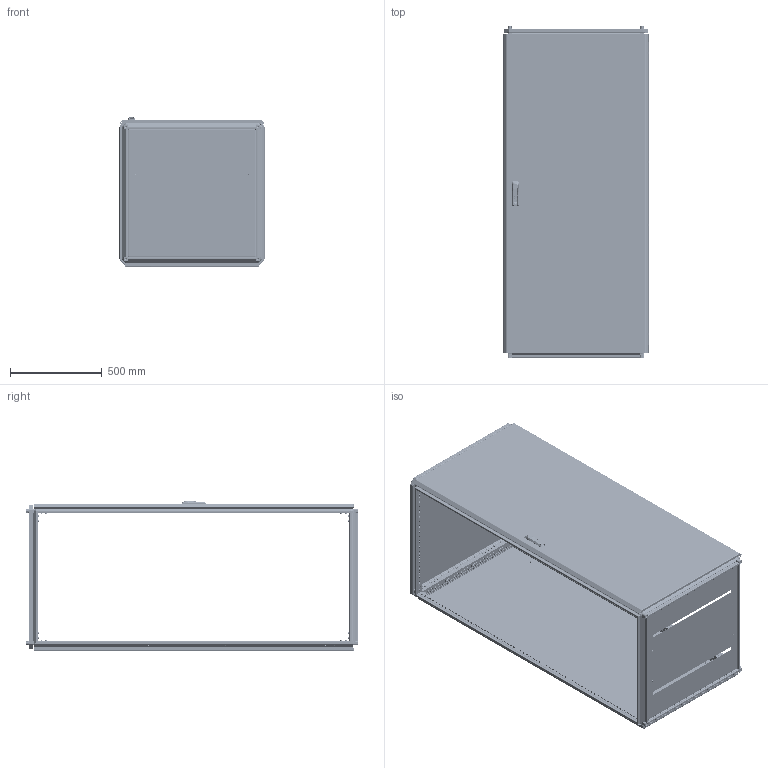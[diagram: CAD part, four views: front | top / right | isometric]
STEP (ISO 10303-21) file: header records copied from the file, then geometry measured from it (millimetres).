
FILE_DESCRIPTION (( 'STEP AP203' ), '1' );
FILE_NAME ('MA1.000.080818.10.00 AleSta1888 Øêàô AleSta 800õ800õ1800.STEP', '2024-08-23T08:16:26', ( '' ), ( '' ), 'SwSTEP 2.0', 'SolidWorks 2021', '' );
FILE_SCHEMA (( 'CONFIG_CONTROL_DESIGN' ));
Length unit declared in the file: millimetre
Products named in the file (49): MA1.000.080818.10.00 AleSta1888 Øêàô AleSta 800õ800õ1800; MA1.101.060620.20.00 Íèæíÿÿ ïàíåëü 600õ600_800å800; Îñü ïåòëè 4õ52_‚¨­â A.M4x0,5x40 ƒŽ‘’ 11644-75; MA1.100.060620.00.01 Ñîåäèíèòåëü óãëîâîé_00; Ïåòëÿ íà äâåðü ï-îáðàçíàÿ; MA1.200.060620.31.04 ðèãåëü çàìêà äâåðè; Íàâåñêà íà êîðïóñ ïîä êëåïêó; Âèíò ñàìîíàðåçàþùèé ñ ïîòàéíîé ãîëîâêîé Ì5x14 DIN 7500 M TORX, êëàññ ïðî÷íîñòè 8.8, îöèíêîâàííàÿ ñòàëü_Œ5å12; ﾘ琺矜 01.019 ﾃﾎﾑﾒ11371-78_12; MA1.101.060620.10.01 Ïîëîòíî êðûøè 600õ600_800x800; Øïèëüêà Ì6õ12_˜¯¨«ìª  Œ6å20; Ãàéêà ñàìîêîíòðÿùàÿñÿ ñ íåéëîíîâîé âñòàâêîé Ì6 DIN 985, êëàññ ïðî÷íîñòè 8, îöèíêîâàííàÿ ñòàëü_Œ5; Øàéáà ñòîïîðíàÿ ñ íàðóæíûìè çóáöàìè SCHNORR, òèï VS öèíêîâûå õëîïüÿ Ì6 O6,4 ART 88121_Œ6; MS463-2-3(1); MA1.101.060620.00.00 AleSta-RB66 Êîìïëåêò êðûøà è îñíîâàíèå_  800å800; 諘蜱齁罻 022 瀁錒瀔隮; äåðæàòåëü_êðóãëîé_òÿãèRG002-RG1010-2-i-RG1010-3-.stp; ﾘ琺矜 65ﾃ 019 ﾃﾎﾑﾒ 6402-70_12; Ïðîáêà ïëàñòèêîâàÿ óíèâåðñàëüíàÿ ïîä îòâåðñòèå 4,5 ìì, ñåðèÿ ST, öâåò áåñöâåòíûé – ST4,5; Âèíò ñàìîíàðåçàþùèé ñ ïîòàéíîé ãîëîâêîé Ì5x14 DIN 7500 M TORX, êëàññ ïðî÷íîñòè 8.8, îöèíêîâàííàÿ ñòàëü_Œ5å14; 7380-2 ISO Âèíòû ñ ïîëóêðóãëîé ãîëîâêîé ñ ôëàíöåì ñ âíóòðåííèì øåñòèãðàííèêîì Ì4õ10; Óïëîòíèòåëü ïàíåëè íèæíåé_800å800; MA1.102.060620.00.01 Ïðîôèëü âåðòèêàëüíûé ñâàðíîé_03 L=1698 (‚=1800); òÿãà_lg001-2.STEP_‚ =1800; MA1.101.060620.20.02 Çàêðûòèå íèæíåé ïàíåëè 600õ600_800x800; MA1.200.060620.31.02 Ðåéêà íà äâåðü âåðòèêàëüíàÿ Â = 2000_‚=1800; MA1.102.060620.00.00 AleSta-VG2000 Ñòîéêè âåðòèêàëüíûå, Â=2000ìì  (4øò)_  800å800; Øïèëüêà Ì6õ12_˜¯¨«ìª  Œ6å16; MA1.200.060620.31.00 Äâåðü ñïëîøíàÿ äëÿ øêàôîâ ALESTA ÂõØ 2000õ600_1800å800; MA1.200.060620.30.00 AleSta-D20M600 Äâåðü ñïëîøíàÿ äëÿ øêàôîâ ALESTA ÂõØ 2000õ600_1800å800; MA1.200.060620.11.00 Ïàíåëü çàäíÿÿ, äëÿ øêàôîâ AleSta, 2000x600_1800å800; MA1.200.060620.10.00 AleSta-PR206  Ïàíåëü çàäíÿÿ, äëÿ øêàôîâ ALESTA, 2000 x 600_1800å800; Âèíò_ðåçüáîâûäàâëèâàþùèé_Ì5õ12_DIN 7500E_00; Áîëò øåñòèãðàííûé Ì5õ12 DIN 933, êëàññ ïðî÷íîñòè 8.8, îöèíêîâàííàÿ ñòàëü; êðåïëåíèå_êðóãëîé_òÿãè_RG1020-1.stp; MA1.200.060620.31.05 Óãëîâîé óïîð äâåðíîé òÿãè; Óïëîòíèòåëü ïàíåëè íèæíåé_ ‚=1800; MA1.101.060620.00.02 Ïðîôèëü ïîïåðå÷íûé ñâàðíîé_02 L=698 (˜=800) ; Âèíò ðåçüáîâûäàâëèâàþùèé Ì6õ12 DIN 7500E_Œ6å10; MA1.101.060620.20.01 Ïîëîòíî íèæíåé ïàíåëè 600õ600_800å800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
Assembly tree (337 placements, depth 4):
  MA1.000.080818.10.00 AleSta1888 Øêàô AleSta 800õ800õ1800
    MA1.101.060620.00.00 AleSta-RB66 Êîìïëåêò êðûøà è îñíîâàíèå_  800å800
      MA1.101.060620.00.02 Ïðîôèëü ïîïåðå÷íûé ñâàðíîé_02 L=698 (˜=800)   x8
      MA1.101.060620.10.00 Êðûøà 600x600_800å800
        MA1.101.060620.10.01 Ïîëîòíî êðûøè 600õ600_800x800
        Øïèëüêà Ì6õ12_˜¯¨«ìª  Œ6å12  x4
        Óïëîòíèòåëü ïàíåëè íèæíåé_800å800
      MA1.101.060620.20.00 Íèæíÿÿ ïàíåëü 600õ600_800å800
        MA1.101.060620.20.01 Ïîëîòíî íèæíåé ïàíåëè 600õ600_800å800
        ﾇﾀﾊﾋﾅﾏﾊﾀ ﾃﾀﾅﾗﾍﾀﾟ ﾘﾅﾑﾒﾈﾃﾐﾀﾍﾍﾀﾟ ﾑ ﾓﾌﾅﾍﾜﾘﾅﾍﾍﾛﾌ ﾁﾎﾐﾒﾎﾌ M4 X 11 (0.5-2.5 ﾌﾌ) HEX U-S ﾖﾈﾍﾊ  x4
        MA1.101.060620.20.02 Çàêðûòèå íèæíåé ïàíåëè 600õ600_800x800  x2
        7380-2 ISO Âèíòû ñ ïîëóêðóãëîé ãîëîâêîé ñ ôëàíöåì ñ âíóòðåííèì øåñòèãðàííèêîì Ì4õ10  x4
      Âèíò_ðåçüáîâûäàâëèâàþùèé_Ì5õ12_DIN 7500E_Œ5å12  x8
      MA1.100.060620.00.01 Ñîåäèíèòåëü óãëîâîé_00  x8
      Âèíò ñ âí. øåñòèãðàííèêîì M12 DIN912_•30  x4
      Âèíò ðåçüáîâûäàâëèâàþùèé Ì6õ12 DIN 7500E_Œ6å10  x96
      ﾘ琺矜 01.019 ﾃﾎﾑﾒ11371-78_12  x4
      ﾘ琺矜 65ﾃ 019 ﾃﾎﾑﾒ 6402-70_12  x4
      Øàéáà ñòîïîðíàÿ ñ íàðóæíûìè çóáöàìè SCHNORR, òèï VS öèíêîâûå õëîïüÿ Ì6 O6,4 ART 88121_Œ6  x80
    MA1.102.060620.00.00 AleSta-VG2000 Ñòîéêè âåðòèêàëüíûå, Â=2000ìì  (4øò)_  800å800
      MA1.102.060620.00.01 Ïðîôèëü âåðòèêàëüíûé ñâàðíîé_03 L=1698 (‚=1800)  x4
    MA1.200.060620.10.00 AleSta-PR206  Ïàíåëü çàäíÿÿ, äëÿ øêàôîâ ALESTA, 2000 x 600_1800å800
      MA1.200.060620.11.00 Ïàíåëü çàäíÿÿ, äëÿ øêàôîâ AleSta, 2000x600_1800å800
        MA1.200.060620.11.01 Ïîëîòíî çàäíåé ïàíåëè 2000õ600_1800å800
        Óïëîòíèòåëü ïàíåëè íèæíåé_ ‚=1800
        Øïèëüêà Ì6õ12_˜¯¨«ìª  Œ6å12  x4
      Âèíò ñàìîíàðåçàþùèé ñ ïîòàéíîé ãîëîâêîé Ì5x14 DIN 7500 M TORX, êëàññ ïðî÷íîñòè 8.8, îöèíêîâàííàÿ ñòàëü_Œ5å14  x8
    MA1.200.060620.30.00 AleSta-D20M600 Äâåðü ñïëîøíàÿ äëÿ øêàôîâ ALESTA ÂõØ 2000õ600_1800å800
      MA1.200.060620.31.00 Äâåðü ñïëîøíàÿ äëÿ øêàôîâ ALESTA ÂõØ 2000õ600_1800å800
        MA1.200.060620.31.01 Ïîëîòíî äâåðè ñïëîøíîé 2000õ600_1800å800
        Óïëîòíèòåëü ïàíåëè íèæíåé_ ‚=1800
        Øïèëüêà Ì6õ12_˜¯¨«ìª  Œ6å20  x16
        Øïèëüêà Ì6õ12_˜¯¨«ìª  Œ6å16  x4
        Ïåòëÿ íà äâåðü ï-îáðàçíàÿ  x4
      MA1.200.060620.31.03 Ðåéêà íà äâåðü ãîðèçîíòàëüíàÿ Ø = 600_˜=800  x2
      諘蜱齁罻 022 瀁錒瀔隮  x4
      MA1.200.060620.31.02 Ðåéêà íà äâåðü âåðòèêàëüíàÿ Â = 2000_‚=1800  x2
      äåðæàòåëü_êðóãëîé_òÿãèRG002-RG1010-2-i-RG1010-3-.stp  x2
      òÿãà_lg001-2.STEP_‚ =1800  x2
      êðåïëåíèå_êðóãëîé_òÿãè_RG1020-1.stp  x2
      MS463-2-3(1)
      Ãàéêà ñàìîêîíòðÿùàÿñÿ ñ íåéëîíîâîé âñòàâêîé Ì6 DIN 985, êëàññ ïðî÷íîñòè 8, îöèíêîâàííàÿ ñòàëü_Œ6  x16
      Ãàéêà ñàìîêîíòðÿùàÿñÿ ñ íåéëîíîâîé âñòàâêîé Ì6 DIN 985, êëàññ ïðî÷íîñòè 8, îöèíêîâàííàÿ ñòàëü_Œ5  x2
      Áîëò øåñòèãðàííûé Ì5õ12 DIN 933, êëàññ ïðî÷íîñòè 8.8, îöèíêîâàííàÿ ñòàëü  x2
      MA1.200.060620.31.04 ðèãåëü çàìêà äâåðè
      MA1.200.060620.31.05 Óãëîâîé óïîð äâåðíîé òÿãè  x2
      Âèíò_ðåçüáîâûäàâëèâàþùèé_Ì5õ12_DIN 7500E_00  x2
      Íàâåñêà íà êîðïóñ ïîä êëåïêó  x4
      Îñü ïåòëè 4õ52_‚¨­â A.M4x0,5x40 ƒŽ‘’ 11644-75  x4
      Âèíò ñàìîíàðåçàþùèé ñ ïîòàéíîé ãîëîâêîé Ì5x14 DIN 7500 M TORX, êëàññ ïðî÷íîñòè 8.8, îöèíêîâàííàÿ ñòàëü_Œ5å12  x8
  Ïðîáêà ïëàñòèêîâàÿ óíèâåðñàëüíàÿ ïîä îòâåðñòèå 4,5 ìì, ñåðèÿ ST, öâåò áåñöâåòíûé – ST4,5
Bounding box: 792 x 1810.9 x 816.8 mm (x, y, z)
Volume: 10553496 mm3; surface area: 13875068.7 mm2
Topology: 364 solids, 378 shells, 24203 faces, 62646 edges, 39272 vertices
Faces by surface type: plane 14505, cylinder 7005, bspline 921, cone 845, torus 829, sphere 98
Entity records: 239421 total; most frequent: CARTESIAN_POINT 78291, ORIENTED_EDGE 30750, DIRECTION 30194, EDGE_CURVE 15392, AXIS2_PLACEMENT_3D 10396, VERTEX_POINT 9601, VECTOR 9402, LINE 9402
